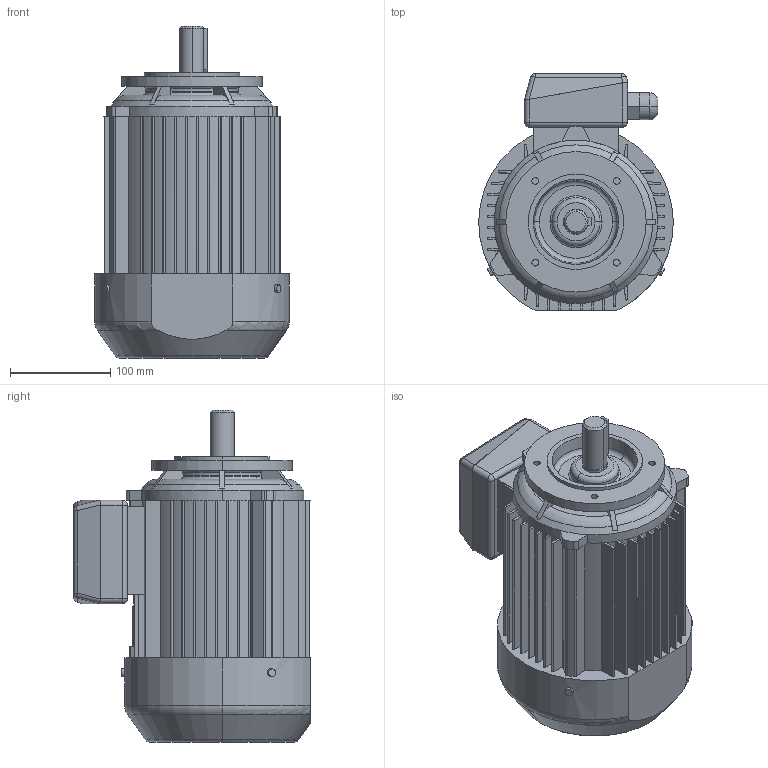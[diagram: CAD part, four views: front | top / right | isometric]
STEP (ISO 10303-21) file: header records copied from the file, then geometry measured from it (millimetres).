
FILE_DESCRIPTION (( 'STEP AP203' ), '1' );
FILE_NAME ('3SIEK90S2,4,6,L2-B14-C2.STEP', '2016-02-08T11:56:04', ( 'Indukta' ), ( 'Celma Indukta S.A.' ), 'SwSTEP 2.0', 'SolidWorks 2003064', '' );
FILE_SCHEMA (( 'CONFIG_CONTROL_DESIGN' ));
Length unit declared in the file: millimetre
Products named in the file (1): 3SIEK90S2,4,6,L2-B14-C2
Bounding box: 194 x 236 x 331 mm (x, y, z)
Volume: 6934937.5 mm3; surface area: 371251.4 mm2
Topology: 1 solids, 1 shells, 603 faces, 1618 edges, 1031 vertices
Faces by surface type: plane 311, cylinder 155, bspline 78, torus 37, cone 14, sphere 8
Entity records: 25478 total; most frequent: CARTESIAN_POINT 10681, ORIENTED_EDGE 3220, DIRECTION 2878, EDGE_CURVE 1610, VERTEX_POINT 1031, AXIS2_PLACEMENT_3D 990, LINE 898, VECTOR 898
